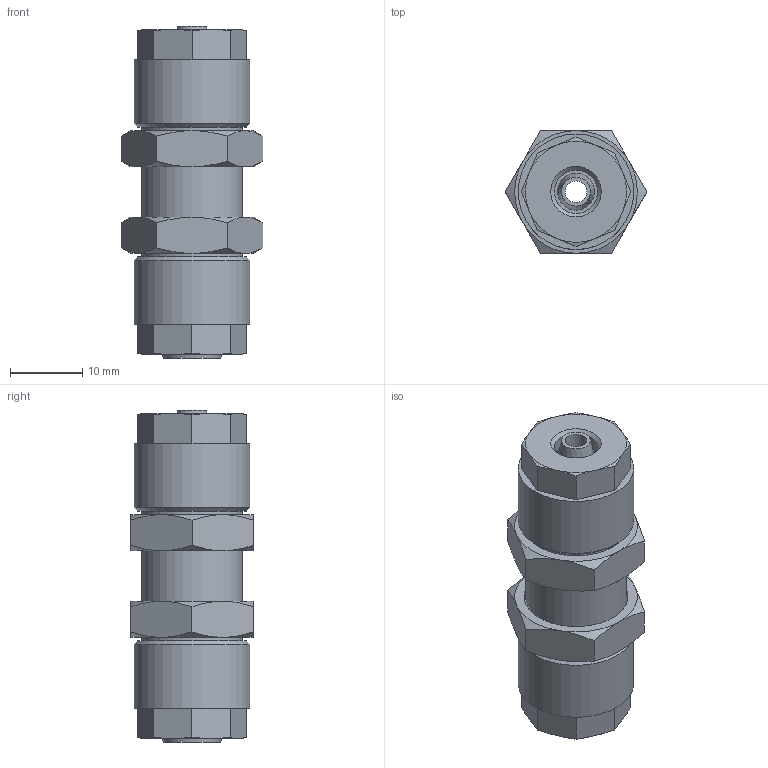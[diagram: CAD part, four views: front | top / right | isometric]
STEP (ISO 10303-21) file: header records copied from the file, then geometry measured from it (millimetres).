
FILE_DESCRIPTION(/* description */ (''),/* implementation_level */ '2;1');
FILE_NAME(/* name */ '10507_304_108_64_17.07.17',/* time_stamp */ '2017-07-17T13:27:31+02:00',/* author */ (''),/* organization */ (''),/* preprocessor_version */ 'ST-DEVELOPER v16.5',/* originating_system */ 'HiCAD 2016 2102.2 Build 618',/* authorisation */ '');
FILE_SCHEMA (('AUTOMOTIVE_DESIGN { 1 0 10303 214 1 1 1 1 }'));
Length unit declared in the file: millimetre
Products named in the file (6): Root; R10507; Kontermutter; 17007; 02_17007_6
Assembly tree (5 placements, depth 2):
  Root
    R10507
    Kontermutter
    Kontermutter
    17007
    02_17007_6
Bounding box: 19.63 x 17 x 46 mm (x, y, z)
Volume: 7393.8 mm3; surface area: 6934.3 mm2
Topology: 5 solids, 5 shells, 116 faces, 253 edges, 153 vertices
Faces by surface type: cone 57, plane 44, cylinder 13, torus 2
Full cylindrical faces by diameter (mm): 3 x1, 4.7 x1, 6 x1, 7 x1, 8.5 x1, 10 x1, 12.773 x4, 14 x1, 16 x2
Entity records: 5156 total; most frequent: DIRECTION 624, CARTESIAN_POINT 474, PRESENTATION_STYLE_ASSIGNMENT 421, COLOUR_RGB 417, DRAUGHTING_PRE_DEFINED_CURVE_FONT 416, CURVE_STYLE 416, OVER_RIDING_STYLED_ITEM 416, ORIENTED_EDGE 416
